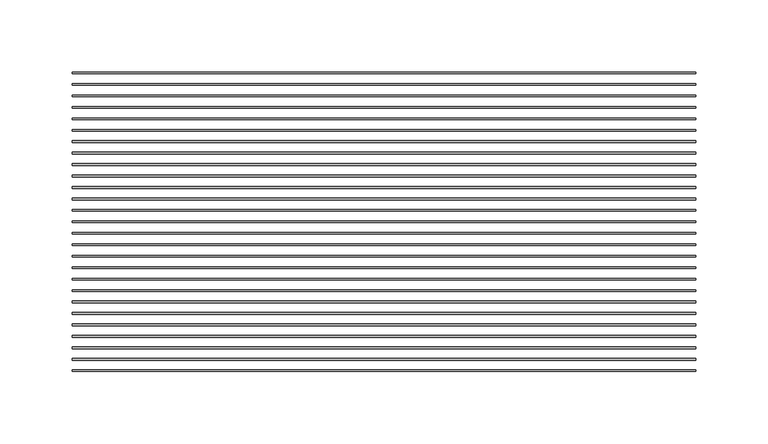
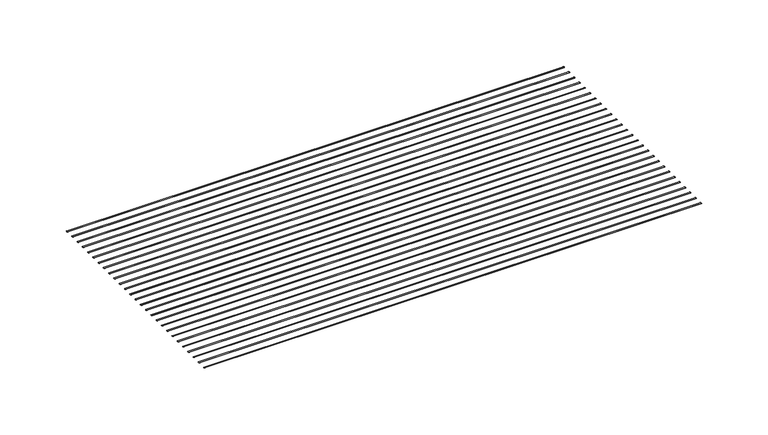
"""IFC4 building model written with IfcOpenShell, lengths in millimetres: proxy geometry, CRAi Generic Model Mesh Piece Face Based : Wider Mesh."""

from ifc_helpers import new_model, si_unit, point, frame, origin, place, context, project, spatial, ellipse_curve, trimmed, source, transform, mapped, element, save
from ifc_brep_helpers import plane_surface, extruded_surface, advanced_brep


def generic_models_a84ea892(model_context):
    return source(origin(), model_context, "Body", "AdvancedBrep", [
        advanced_brep(
        [(-215.9, 168.0765625, -2.9765625), (-215.9, 166.8859375, -2.9765625), (215.9, 168.0765625, -2.9765625), (215.9, 166.8859375, -2.9765625)],
        [
            (0, 1, ellipse_curve(frame((-215.9, 167.48125, -2.9765625), z_axis=(-1.0, 0.0, 0.0), x_axis=(0.0, -1.0, 0.0)), 0.5953125, 0.1984375)),
            (1, 0, ellipse_curve(frame((-215.9, 167.48125, -2.9765625), z_axis=(-1.0, 0.0, 0.0), x_axis=(0.0, -1.0, 0.0)), 0.5953125, 0.1984375)),
            (2, 3, ellipse_curve(frame((215.9, 167.48125, -2.9765625), z_axis=(1.0, 0.0, 0.0), x_axis=(0.0, -1.0, 0.0)), 0.5953125, 0.1984375)),
            (3, 2, ellipse_curve(frame((215.9, 167.48125, -2.9765625), z_axis=(1.0, 0.0, 0.0), x_axis=(0.0, -1.0, 0.0)), 0.5953125, 0.1984375)),
            (0, 2),
            (3, 1),
        ],
        [
            plane_surface(frame((-215.9, 167.48125, -2.9765625), z_axis=(-1.0, 0.0, 0.0), x_axis=(0.0, 0.0, 1.0))),
            plane_surface(frame((215.9, 167.48125, -2.9765625), z_axis=(1.0, 0.0, 0.0), x_axis=(0.0, 0.0, 1.0))),
            extruded_surface(trimmed(ellipse_curve(frame((215.9, 167.48125, -2.9765625), z_axis=(-1.0, 0.0, 0.0), x_axis=(0.0, -1.0, 0.0)), 0.5953125, 0.1984375), [point((215.9, 168.0765625, -2.9765625))], [point((215.9, 166.8859375, -2.9765625))], True, "CARTESIAN"), (-431.8, 0.0, 0.0), 431.8),
            extruded_surface(trimmed(ellipse_curve(frame((215.9, 167.48125, -2.9765625), z_axis=(-1.0, 0.0, 0.0), x_axis=(0.0, -1.0, 0.0)), 0.5953125, 0.1984375), [point((215.9, 166.8859375, -2.9765625))], [point((215.9, 168.0765625, -2.9765625))], True, "CARTESIAN"), (-431.8, 0.0, 0.0), 431.8),
        ],
        [
            (0, [[1, 2]]),
            (1, [[3, 4]]),
            (2, [[-1, 5, -4, 6]]),
            (3, [[-2, -6, -3, -5]]),
        ],
    ),
        advanced_brep(
        [(-215.9, 160.1390625, -2.9765625), (-215.9, 158.9484375, -2.9765625), (215.9, 160.1390625, -2.9765625), (215.9, 158.9484375, -2.9765625)],
        [
            (0, 1, ellipse_curve(frame((-215.9, 159.54375, -2.9765625), z_axis=(-1.0, 0.0, 0.0), x_axis=(0.0, -1.0, 0.0)), 0.5953125, 0.1984375)),
            (1, 0, ellipse_curve(frame((-215.9, 159.54375, -2.9765625), z_axis=(-1.0, 0.0, 0.0), x_axis=(0.0, -1.0, 0.0)), 0.5953125, 0.1984375)),
            (2, 3, ellipse_curve(frame((215.9, 159.54375, -2.9765625), z_axis=(1.0, 0.0, 0.0), x_axis=(0.0, -1.0, 0.0)), 0.5953125, 0.1984375)),
            (3, 2, ellipse_curve(frame((215.9, 159.54375, -2.9765625), z_axis=(1.0, 0.0, 0.0), x_axis=(0.0, -1.0, 0.0)), 0.5953125, 0.1984375)),
            (0, 2),
            (3, 1),
        ],
        [
            plane_surface(frame((-215.9, 159.54375, -2.9765625), z_axis=(-1.0, 0.0, 0.0), x_axis=(0.0, 0.0, 1.0))),
            plane_surface(frame((215.9, 159.54375, -2.9765625), z_axis=(1.0, 0.0, 0.0), x_axis=(0.0, 0.0, 1.0))),
            extruded_surface(trimmed(ellipse_curve(frame((215.9, 159.54375, -2.9765625), z_axis=(-1.0, 0.0, 0.0), x_axis=(0.0, -1.0, 0.0)), 0.5953125, 0.1984375), [point((215.9, 160.1390625, -2.9765625))], [point((215.9, 158.9484375, -2.9765625))], True, "CARTESIAN"), (-431.8, 0.0, 0.0), 431.8),
            extruded_surface(trimmed(ellipse_curve(frame((215.9, 159.54375, -2.9765625), z_axis=(-1.0, 0.0, 0.0), x_axis=(0.0, -1.0, 0.0)), 0.5953125, 0.1984375), [point((215.9, 158.9484375, -2.9765625))], [point((215.9, 160.1390625, -2.9765625))], True, "CARTESIAN"), (-431.8, 0.0, 0.0), 431.8),
        ],
        [
            (0, [[1, 2]]),
            (1, [[3, 4]]),
            (2, [[-1, 5, -4, 6]]),
            (3, [[-2, -6, -3, -5]]),
        ],
    ),
        advanced_brep(
        [(-215.9, 152.2015625, -2.9765625), (-215.9, 151.0109375, -2.9765625), (215.9, 152.2015625, -2.9765625), (215.9, 151.0109375, -2.9765625)],
        [
            (0, 1, ellipse_curve(frame((-215.9, 151.60625, -2.9765625), z_axis=(-1.0, 0.0, 0.0), x_axis=(0.0, -1.0, 0.0)), 0.5953125, 0.1984375)),
            (1, 0, ellipse_curve(frame((-215.9, 151.60625, -2.9765625), z_axis=(-1.0, 0.0, 0.0), x_axis=(0.0, -1.0, 0.0)), 0.5953125, 0.1984375)),
            (2, 3, ellipse_curve(frame((215.9, 151.60625, -2.9765625), z_axis=(1.0, 0.0, 0.0), x_axis=(0.0, -1.0, 0.0)), 0.5953125, 0.1984375)),
            (3, 2, ellipse_curve(frame((215.9, 151.60625, -2.9765625), z_axis=(1.0, 0.0, 0.0), x_axis=(0.0, -1.0, 0.0)), 0.5953125, 0.1984375)),
            (0, 2),
            (3, 1),
        ],
        [
            plane_surface(frame((-215.9, 151.60625, -2.9765625), z_axis=(-1.0, 0.0, 0.0), x_axis=(0.0, 0.0, 1.0))),
            plane_surface(frame((215.9, 151.60625, -2.9765625), z_axis=(1.0, 0.0, 0.0), x_axis=(0.0, 0.0, 1.0))),
            extruded_surface(trimmed(ellipse_curve(frame((215.9, 151.60625, -2.9765625), z_axis=(-1.0, 0.0, 0.0), x_axis=(0.0, -1.0, 0.0)), 0.5953125, 0.1984375), [point((215.9, 152.2015625, -2.9765625))], [point((215.9, 151.0109375, -2.9765625))], True, "CARTESIAN"), (-431.8, 0.0, 0.0), 431.8),
            extruded_surface(trimmed(ellipse_curve(frame((215.9, 151.60625, -2.9765625), z_axis=(-1.0, 0.0, 0.0), x_axis=(0.0, -1.0, 0.0)), 0.5953125, 0.1984375), [point((215.9, 151.0109375, -2.9765625))], [point((215.9, 152.2015625, -2.9765625))], True, "CARTESIAN"), (-431.8, 0.0, 0.0), 431.8),
        ],
        [
            (0, [[1, 2]]),
            (1, [[3, 4]]),
            (2, [[-1, 5, -4, 6]]),
            (3, [[-2, -6, -3, -5]]),
        ],
    ),
        advanced_brep(
        [(-215.9, 144.2640625, -2.9765625), (-215.9, 143.0734375, -2.9765625), (215.9, 144.2640625, -2.9765625), (215.9, 143.0734375, -2.9765625)],
        [
            (0, 1, ellipse_curve(frame((-215.9, 143.66875, -2.9765625), z_axis=(-1.0, 0.0, 0.0), x_axis=(0.0, -1.0, 0.0)), 0.5953125, 0.1984375)),
            (1, 0, ellipse_curve(frame((-215.9, 143.66875, -2.9765625), z_axis=(-1.0, 0.0, 0.0), x_axis=(0.0, -1.0, 0.0)), 0.5953125, 0.1984375)),
            (2, 3, ellipse_curve(frame((215.9, 143.66875, -2.9765625), z_axis=(1.0, 0.0, 0.0), x_axis=(0.0, -1.0, 0.0)), 0.5953125, 0.1984375)),
            (3, 2, ellipse_curve(frame((215.9, 143.66875, -2.9765625), z_axis=(1.0, 0.0, 0.0), x_axis=(0.0, -1.0, 0.0)), 0.5953125, 0.1984375)),
            (0, 2),
            (3, 1),
        ],
        [
            plane_surface(frame((-215.9, 143.66875, -2.9765625), z_axis=(-1.0, 0.0, 0.0), x_axis=(0.0, 0.0, 1.0))),
            plane_surface(frame((215.9, 143.66875, -2.9765625), z_axis=(1.0, 0.0, 0.0), x_axis=(0.0, 0.0, 1.0))),
            extruded_surface(trimmed(ellipse_curve(frame((215.9, 143.66875, -2.9765625), z_axis=(-1.0, 0.0, 0.0), x_axis=(0.0, -1.0, 0.0)), 0.5953125, 0.1984375), [point((215.9, 144.2640625, -2.9765625))], [point((215.9, 143.0734375, -2.9765625))], True, "CARTESIAN"), (-431.8, 0.0, 0.0), 431.8),
            extruded_surface(trimmed(ellipse_curve(frame((215.9, 143.66875, -2.9765625), z_axis=(-1.0, 0.0, 0.0), x_axis=(0.0, -1.0, 0.0)), 0.5953125, 0.1984375), [point((215.9, 143.0734375, -2.9765625))], [point((215.9, 144.2640625, -2.9765625))], True, "CARTESIAN"), (-431.8, 0.0, 0.0), 431.8),
        ],
        [
            (0, [[1, 2]]),
            (1, [[3, 4]]),
            (2, [[-1, 5, -4, 6]]),
            (3, [[-2, -6, -3, -5]]),
        ],
    ),
        advanced_brep(
        [(-215.9, 136.3265625, -2.9765625), (-215.9, 135.1359375, -2.9765625), (215.9, 136.3265625, -2.9765625), (215.9, 135.1359375, -2.9765625)],
        [
            (0, 1, ellipse_curve(frame((-215.9, 135.73125, -2.9765625), z_axis=(-1.0, 0.0, 0.0), x_axis=(0.0, -1.0, 0.0)), 0.5953125, 0.1984375)),
            (1, 0, ellipse_curve(frame((-215.9, 135.73125, -2.9765625), z_axis=(-1.0, 0.0, 0.0), x_axis=(0.0, -1.0, 0.0)), 0.5953125, 0.1984375)),
            (2, 3, ellipse_curve(frame((215.9, 135.73125, -2.9765625), z_axis=(1.0, 0.0, 0.0), x_axis=(0.0, -1.0, 0.0)), 0.5953125, 0.1984375)),
            (3, 2, ellipse_curve(frame((215.9, 135.73125, -2.9765625), z_axis=(1.0, 0.0, 0.0), x_axis=(0.0, -1.0, 0.0)), 0.5953125, 0.1984375)),
            (0, 2),
            (3, 1),
        ],
        [
            plane_surface(frame((-215.9, 135.73125, -2.9765625), z_axis=(-1.0, 0.0, 0.0), x_axis=(0.0, 0.0, 1.0))),
            plane_surface(frame((215.9, 135.73125, -2.9765625), z_axis=(1.0, 0.0, 0.0), x_axis=(0.0, 0.0, 1.0))),
            extruded_surface(trimmed(ellipse_curve(frame((215.9, 135.73125, -2.9765625), z_axis=(-1.0, 0.0, 0.0), x_axis=(0.0, -1.0, 0.0)), 0.5953125, 0.1984375), [point((215.9, 136.3265625, -2.9765625))], [point((215.9, 135.1359375, -2.9765625))], True, "CARTESIAN"), (-431.8, 0.0, 0.0), 431.8),
            extruded_surface(trimmed(ellipse_curve(frame((215.9, 135.73125, -2.9765625), z_axis=(-1.0, 0.0, 0.0), x_axis=(0.0, -1.0, 0.0)), 0.5953125, 0.1984375), [point((215.9, 135.1359375, -2.9765625))], [point((215.9, 136.3265625, -2.9765625))], True, "CARTESIAN"), (-431.8, 0.0, 0.0), 431.8),
        ],
        [
            (0, [[1, 2]]),
            (1, [[3, 4]]),
            (2, [[-1, 5, -4, 6]]),
            (3, [[-2, -6, -3, -5]]),
        ],
    ),
        advanced_brep(
        [(-215.9, 128.3890625, -2.9765625), (-215.9, 127.1984375, -2.9765625), (215.9, 128.3890625, -2.9765625), (215.9, 127.1984375, -2.9765625)],
        [
            (0, 1, ellipse_curve(frame((-215.9, 127.79375, -2.9765625), z_axis=(-1.0, 0.0, 0.0), x_axis=(0.0, -1.0, 0.0)), 0.5953125, 0.1984375)),
            (1, 0, ellipse_curve(frame((-215.9, 127.79375, -2.9765625), z_axis=(-1.0, 0.0, 0.0), x_axis=(0.0, -1.0, 0.0)), 0.5953125, 0.1984375)),
            (2, 3, ellipse_curve(frame((215.9, 127.79375, -2.9765625), z_axis=(1.0, 0.0, 0.0), x_axis=(0.0, -1.0, 0.0)), 0.5953125, 0.1984375)),
            (3, 2, ellipse_curve(frame((215.9, 127.79375, -2.9765625), z_axis=(1.0, 0.0, 0.0), x_axis=(0.0, -1.0, 0.0)), 0.5953125, 0.1984375)),
            (0, 2),
            (3, 1),
        ],
        [
            plane_surface(frame((-215.9, 127.79375, -2.9765625), z_axis=(-1.0, 0.0, 0.0), x_axis=(0.0, 0.0, 1.0))),
            plane_surface(frame((215.9, 127.79375, -2.9765625), z_axis=(1.0, 0.0, 0.0), x_axis=(0.0, 0.0, 1.0))),
            extruded_surface(trimmed(ellipse_curve(frame((215.9, 127.79375, -2.9765625), z_axis=(-1.0, 0.0, 0.0), x_axis=(0.0, -1.0, 0.0)), 0.5953125, 0.1984375), [point((215.9, 128.3890625, -2.9765625))], [point((215.9, 127.1984375, -2.9765625))], True, "CARTESIAN"), (-431.8, 0.0, 0.0), 431.8),
            extruded_surface(trimmed(ellipse_curve(frame((215.9, 127.79375, -2.9765625), z_axis=(-1.0, 0.0, 0.0), x_axis=(0.0, -1.0, 0.0)), 0.5953125, 0.1984375), [point((215.9, 127.1984375, -2.9765625))], [point((215.9, 128.3890625, -2.9765625))], True, "CARTESIAN"), (-431.8, 0.0, 0.0), 431.8),
        ],
        [
            (0, [[1, 2]]),
            (1, [[3, 4]]),
            (2, [[-1, 5, -4, 6]]),
            (3, [[-2, -6, -3, -5]]),
        ],
    ),
        advanced_brep(
        [(-215.9, 120.4515625, -2.9765625), (-215.9, 119.2609375, -2.9765625), (215.9, 120.4515625, -2.9765625), (215.9, 119.2609375, -2.9765625)],
        [
            (0, 1, ellipse_curve(frame((-215.9, 119.85625, -2.9765625), z_axis=(-1.0, 0.0, 0.0), x_axis=(0.0, -1.0, 0.0)), 0.5953125, 0.1984375)),
            (1, 0, ellipse_curve(frame((-215.9, 119.85625, -2.9765625), z_axis=(-1.0, 0.0, 0.0), x_axis=(0.0, -1.0, 0.0)), 0.5953125, 0.1984375)),
            (2, 3, ellipse_curve(frame((215.9, 119.85625, -2.9765625), z_axis=(1.0, 0.0, 0.0), x_axis=(0.0, -1.0, 0.0)), 0.5953125, 0.1984375)),
            (3, 2, ellipse_curve(frame((215.9, 119.85625, -2.9765625), z_axis=(1.0, 0.0, 0.0), x_axis=(0.0, -1.0, 0.0)), 0.5953125, 0.1984375)),
            (0, 2),
            (3, 1),
        ],
        [
            plane_surface(frame((-215.9, 119.85625, -2.9765625), z_axis=(-1.0, 0.0, 0.0), x_axis=(0.0, 0.0, 1.0))),
            plane_surface(frame((215.9, 119.85625, -2.9765625), z_axis=(1.0, 0.0, 0.0), x_axis=(0.0, 0.0, 1.0))),
            extruded_surface(trimmed(ellipse_curve(frame((215.9, 119.85625, -2.9765625), z_axis=(-1.0, 0.0, 0.0), x_axis=(0.0, -1.0, 0.0)), 0.5953125, 0.1984375), [point((215.9, 120.4515625, -2.9765625))], [point((215.9, 119.2609375, -2.9765625))], True, "CARTESIAN"), (-431.8, 0.0, 0.0), 431.8),
            extruded_surface(trimmed(ellipse_curve(frame((215.9, 119.85625, -2.9765625), z_axis=(-1.0, 0.0, 0.0), x_axis=(0.0, -1.0, 0.0)), 0.5953125, 0.1984375), [point((215.9, 119.2609375, -2.9765625))], [point((215.9, 120.4515625, -2.9765625))], True, "CARTESIAN"), (-431.8, 0.0, 0.0), 431.8),
        ],
        [
            (0, [[1, 2]]),
            (1, [[3, 4]]),
            (2, [[-1, 5, -4, 6]]),
            (3, [[-2, -6, -3, -5]]),
        ],
    ),
        advanced_brep(
        [(-215.9, 112.5140625, -2.9765625), (-215.9, 111.3234375, -2.9765625), (215.9, 112.5140625, -2.9765625), (215.9, 111.3234375, -2.9765625)],
        [
            (0, 1, ellipse_curve(frame((-215.9, 111.91875, -2.9765625), z_axis=(-1.0, 0.0, 0.0), x_axis=(0.0, -1.0, 0.0)), 0.5953125, 0.1984375)),
            (1, 0, ellipse_curve(frame((-215.9, 111.91875, -2.9765625), z_axis=(-1.0, 0.0, 0.0), x_axis=(0.0, -1.0, 0.0)), 0.5953125, 0.1984375)),
            (2, 3, ellipse_curve(frame((215.9, 111.91875, -2.9765625), z_axis=(1.0, 0.0, 0.0), x_axis=(0.0, -1.0, 0.0)), 0.5953125, 0.1984375)),
            (3, 2, ellipse_curve(frame((215.9, 111.91875, -2.9765625), z_axis=(1.0, 0.0, 0.0), x_axis=(0.0, -1.0, 0.0)), 0.5953125, 0.1984375)),
            (0, 2),
            (3, 1),
        ],
        [
            plane_surface(frame((-215.9, 111.91875, -2.9765625), z_axis=(-1.0, 0.0, 0.0), x_axis=(0.0, 0.0, 1.0))),
            plane_surface(frame((215.9, 111.91875, -2.9765625), z_axis=(1.0, 0.0, 0.0), x_axis=(0.0, 0.0, 1.0))),
            extruded_surface(trimmed(ellipse_curve(frame((215.9, 111.91875, -2.9765625), z_axis=(-1.0, 0.0, 0.0), x_axis=(0.0, -1.0, 0.0)), 0.5953125, 0.1984375), [point((215.9, 112.5140625, -2.9765625))], [point((215.9, 111.3234375, -2.9765625))], True, "CARTESIAN"), (-431.8, 0.0, 0.0), 431.8),
            extruded_surface(trimmed(ellipse_curve(frame((215.9, 111.91875, -2.9765625), z_axis=(-1.0, 0.0, 0.0), x_axis=(0.0, -1.0, 0.0)), 0.5953125, 0.1984375), [point((215.9, 111.3234375, -2.9765625))], [point((215.9, 112.5140625, -2.9765625))], True, "CARTESIAN"), (-431.8, 0.0, 0.0), 431.8),
        ],
        [
            (0, [[1, 2]]),
            (1, [[3, 4]]),
            (2, [[-1, 5, -4, 6]]),
            (3, [[-2, -6, -3, -5]]),
        ],
    ),
        advanced_brep(
        [(-215.9, 104.5765625, -2.9765625), (-215.9, 103.3859375, -2.9765625), (215.9, 104.5765625, -2.9765625), (215.9, 103.3859375, -2.9765625)],
        [
            (0, 1, ellipse_curve(frame((-215.9, 103.98125, -2.9765625), z_axis=(-1.0, 0.0, 0.0), x_axis=(0.0, -1.0, 0.0)), 0.5953125, 0.1984375)),
            (1, 0, ellipse_curve(frame((-215.9, 103.98125, -2.9765625), z_axis=(-1.0, 0.0, 0.0), x_axis=(0.0, -1.0, 0.0)), 0.5953125, 0.1984375)),
            (2, 3, ellipse_curve(frame((215.9, 103.98125, -2.9765625), z_axis=(1.0, 0.0, 0.0), x_axis=(0.0, -1.0, 0.0)), 0.5953125, 0.1984375)),
            (3, 2, ellipse_curve(frame((215.9, 103.98125, -2.9765625), z_axis=(1.0, 0.0, 0.0), x_axis=(0.0, -1.0, 0.0)), 0.5953125, 0.1984375)),
            (0, 2),
            (3, 1),
        ],
        [
            plane_surface(frame((-215.9, 103.98125, -2.9765625), z_axis=(-1.0, 0.0, 0.0), x_axis=(0.0, 0.0, 1.0))),
            plane_surface(frame((215.9, 103.98125, -2.9765625), z_axis=(1.0, 0.0, 0.0), x_axis=(0.0, 0.0, 1.0))),
            extruded_surface(trimmed(ellipse_curve(frame((215.9, 103.98125, -2.9765625), z_axis=(-1.0, 0.0, 0.0), x_axis=(0.0, -1.0, 0.0)), 0.5953125, 0.1984375), [point((215.9, 104.5765625, -2.9765625))], [point((215.9, 103.3859375, -2.9765625))], True, "CARTESIAN"), (-431.8, 0.0, 0.0), 431.8),
            extruded_surface(trimmed(ellipse_curve(frame((215.9, 103.98125, -2.9765625), z_axis=(-1.0, 0.0, 0.0), x_axis=(0.0, -1.0, 0.0)), 0.5953125, 0.1984375), [point((215.9, 103.3859375, -2.9765625))], [point((215.9, 104.5765625, -2.9765625))], True, "CARTESIAN"), (-431.8, 0.0, 0.0), 431.8),
        ],
        [
            (0, [[1, 2]]),
            (1, [[3, 4]]),
            (2, [[-1, 5, -4, 6]]),
            (3, [[-2, -6, -3, -5]]),
        ],
    ),
        advanced_brep(
        [(-215.9, 96.6390625, -2.9765625), (-215.9, 95.4484375, -2.9765625), (215.9, 96.6390625, -2.9765625), (215.9, 95.4484375, -2.9765625)],
        [
            (0, 1, ellipse_curve(frame((-215.9, 96.04375, -2.9765625), z_axis=(-1.0, 0.0, 0.0), x_axis=(0.0, -1.0, 0.0)), 0.5953125, 0.1984375)),
            (1, 0, ellipse_curve(frame((-215.9, 96.04375, -2.9765625), z_axis=(-1.0, 0.0, 0.0), x_axis=(0.0, -1.0, 0.0)), 0.5953125, 0.1984375)),
            (2, 3, ellipse_curve(frame((215.9, 96.04375, -2.9765625), z_axis=(1.0, 0.0, 0.0), x_axis=(0.0, -1.0, 0.0)), 0.5953125, 0.1984375)),
            (3, 2, ellipse_curve(frame((215.9, 96.04375, -2.9765625), z_axis=(1.0, 0.0, 0.0), x_axis=(0.0, -1.0, 0.0)), 0.5953125, 0.1984375)),
            (0, 2),
            (3, 1),
        ],
        [
            plane_surface(frame((-215.9, 96.04375, -2.9765625), z_axis=(-1.0, 0.0, 0.0), x_axis=(0.0, 0.0, 1.0))),
            plane_surface(frame((215.9, 96.04375, -2.9765625), z_axis=(1.0, 0.0, 0.0), x_axis=(0.0, 0.0, 1.0))),
            extruded_surface(trimmed(ellipse_curve(frame((215.9, 96.04375, -2.9765625), z_axis=(-1.0, 0.0, 0.0), x_axis=(0.0, -1.0, 0.0)), 0.5953125, 0.1984375), [point((215.9, 96.6390625, -2.9765625))], [point((215.9, 95.4484375, -2.9765625))], True, "CARTESIAN"), (-431.8, 0.0, 0.0), 431.8),
            extruded_surface(trimmed(ellipse_curve(frame((215.9, 96.04375, -2.9765625), z_axis=(-1.0, 0.0, 0.0), x_axis=(0.0, -1.0, 0.0)), 0.5953125, 0.1984375), [point((215.9, 95.4484375, -2.9765625))], [point((215.9, 96.6390625, -2.9765625))], True, "CARTESIAN"), (-431.8, 0.0, 0.0), 431.8),
        ],
        [
            (0, [[1, 2]]),
            (1, [[3, 4]]),
            (2, [[-1, 5, -4, 6]]),
            (3, [[-2, -6, -3, -5]]),
        ],
    ),
        advanced_brep(
        [(-215.9, 88.7015625, -2.9765625), (-215.9, 87.5109375, -2.9765625), (215.9, 88.7015625, -2.9765625), (215.9, 87.5109375, -2.9765625)],
        [
            (0, 1, ellipse_curve(frame((-215.9, 88.10625, -2.9765625), z_axis=(-1.0, 0.0, 0.0), x_axis=(0.0, -1.0, 0.0)), 0.5953125, 0.1984375)),
            (1, 0, ellipse_curve(frame((-215.9, 88.10625, -2.9765625), z_axis=(-1.0, 0.0, 0.0), x_axis=(0.0, -1.0, 0.0)), 0.5953125, 0.1984375)),
            (2, 3, ellipse_curve(frame((215.9, 88.10625, -2.9765625), z_axis=(1.0, 0.0, 0.0), x_axis=(0.0, -1.0, 0.0)), 0.5953125, 0.1984375)),
            (3, 2, ellipse_curve(frame((215.9, 88.10625, -2.9765625), z_axis=(1.0, 0.0, 0.0), x_axis=(0.0, -1.0, 0.0)), 0.5953125, 0.1984375)),
            (0, 2),
            (3, 1),
        ],
        [
            plane_surface(frame((-215.9, 88.10625, -2.9765625), z_axis=(-1.0, 0.0, 0.0), x_axis=(0.0, 0.0, 1.0))),
            plane_surface(frame((215.9, 88.10625, -2.9765625), z_axis=(1.0, 0.0, 0.0), x_axis=(0.0, 0.0, 1.0))),
            extruded_surface(trimmed(ellipse_curve(frame((215.9, 88.10625, -2.9765625), z_axis=(-1.0, 0.0, 0.0), x_axis=(0.0, -1.0, 0.0)), 0.5953125, 0.1984375), [point((215.9, 88.7015625, -2.9765625))], [point((215.9, 87.5109375, -2.9765625))], True, "CARTESIAN"), (-431.8, 0.0, 0.0), 431.8),
            extruded_surface(trimmed(ellipse_curve(frame((215.9, 88.10625, -2.9765625), z_axis=(-1.0, 0.0, 0.0), x_axis=(0.0, -1.0, 0.0)), 0.5953125, 0.1984375), [point((215.9, 87.5109375, -2.9765625))], [point((215.9, 88.7015625, -2.9765625))], True, "CARTESIAN"), (-431.8, 0.0, 0.0), 431.8),
        ],
        [
            (0, [[1, 2]]),
            (1, [[3, 4]]),
            (2, [[-1, 5, -4, 6]]),
            (3, [[-2, -6, -3, -5]]),
        ],
    ),
        advanced_brep(
        [(-215.9, 80.7640625, -2.9765625), (-215.9, 79.5734375, -2.9765625), (215.9, 80.7640625, -2.9765625), (215.9, 79.5734375, -2.9765625)],
        [
            (0, 1, ellipse_curve(frame((-215.9, 80.16875, -2.9765625), z_axis=(-1.0, 0.0, 0.0), x_axis=(0.0, -1.0, 0.0)), 0.5953125, 0.1984375)),
            (1, 0, ellipse_curve(frame((-215.9, 80.16875, -2.9765625), z_axis=(-1.0, 0.0, 0.0), x_axis=(0.0, -1.0, 0.0)), 0.5953125, 0.1984375)),
            (2, 3, ellipse_curve(frame((215.9, 80.16875, -2.9765625), z_axis=(1.0, 0.0, 0.0), x_axis=(0.0, -1.0, 0.0)), 0.5953125, 0.1984375)),
            (3, 2, ellipse_curve(frame((215.9, 80.16875, -2.9765625), z_axis=(1.0, 0.0, 0.0), x_axis=(0.0, -1.0, 0.0)), 0.5953125, 0.1984375)),
            (0, 2),
            (3, 1),
        ],
        [
            plane_surface(frame((-215.9, 80.16875, -2.9765625), z_axis=(-1.0, 0.0, 0.0), x_axis=(0.0, 0.0, 1.0))),
            plane_surface(frame((215.9, 80.16875, -2.9765625), z_axis=(1.0, 0.0, 0.0), x_axis=(0.0, 0.0, 1.0))),
            extruded_surface(trimmed(ellipse_curve(frame((215.9, 80.16875, -2.9765625), z_axis=(-1.0, 0.0, 0.0), x_axis=(0.0, -1.0, 0.0)), 0.5953125, 0.1984375), [point((215.9, 80.7640625, -2.9765625))], [point((215.9, 79.5734375, -2.9765625))], True, "CARTESIAN"), (-431.8, 0.0, 0.0), 431.8),
            extruded_surface(trimmed(ellipse_curve(frame((215.9, 80.16875, -2.9765625), z_axis=(-1.0, 0.0, 0.0), x_axis=(0.0, -1.0, 0.0)), 0.5953125, 0.1984375), [point((215.9, 79.5734375, -2.9765625))], [point((215.9, 80.7640625, -2.9765625))], True, "CARTESIAN"), (-431.8, 0.0, 0.0), 431.8),
        ],
        [
            (0, [[1, 2]]),
            (1, [[3, 4]]),
            (2, [[-1, 5, -4, 6]]),
            (3, [[-2, -6, -3, -5]]),
        ],
    ),
        advanced_brep(
        [(-215.9, 72.8265625, -2.9765625), (-215.9, 71.6359375, -2.9765625), (215.9, 72.8265625, -2.9765625), (215.9, 71.6359375, -2.9765625)],
        [
            (0, 1, ellipse_curve(frame((-215.9, 72.23125, -2.9765625), z_axis=(-1.0, 0.0, 0.0), x_axis=(0.0, -1.0, 0.0)), 0.5953125, 0.1984375)),
            (1, 0, ellipse_curve(frame((-215.9, 72.23125, -2.9765625), z_axis=(-1.0, 0.0, 0.0), x_axis=(0.0, -1.0, 0.0)), 0.5953125, 0.1984375)),
            (2, 3, ellipse_curve(frame((215.9, 72.23125, -2.9765625), z_axis=(1.0, 0.0, 0.0), x_axis=(0.0, -1.0, 0.0)), 0.5953125, 0.1984375)),
            (3, 2, ellipse_curve(frame((215.9, 72.23125, -2.9765625), z_axis=(1.0, 0.0, 0.0), x_axis=(0.0, -1.0, 0.0)), 0.5953125, 0.1984375)),
            (0, 2),
            (3, 1),
        ],
        [
            plane_surface(frame((-215.9, 72.23125, -2.9765625), z_axis=(-1.0, 0.0, 0.0), x_axis=(0.0, 0.0, 1.0))),
            plane_surface(frame((215.9, 72.23125, -2.9765625), z_axis=(1.0, 0.0, 0.0), x_axis=(0.0, 0.0, 1.0))),
            extruded_surface(trimmed(ellipse_curve(frame((215.9, 72.23125, -2.9765625), z_axis=(-1.0, 0.0, 0.0), x_axis=(0.0, -1.0, 0.0)), 0.5953125, 0.1984375), [point((215.9, 72.8265625, -2.9765625))], [point((215.9, 71.6359375, -2.9765625))], True, "CARTESIAN"), (-431.8, 0.0, 0.0), 431.8),
            extruded_surface(trimmed(ellipse_curve(frame((215.9, 72.23125, -2.9765625), z_axis=(-1.0, 0.0, 0.0), x_axis=(0.0, -1.0, 0.0)), 0.5953125, 0.1984375), [point((215.9, 71.6359375, -2.9765625))], [point((215.9, 72.8265625, -2.9765625))], True, "CARTESIAN"), (-431.8, 0.0, 0.0), 431.8),
        ],
        [
            (0, [[1, 2]]),
            (1, [[3, 4]]),
            (2, [[-1, 5, -4, 6]]),
            (3, [[-2, -6, -3, -5]]),
        ],
    ),
        advanced_brep(
        [(-215.9, 64.8890625, -2.9765625), (-215.9, 63.6984375, -2.9765625), (215.9, 64.8890625, -2.9765625), (215.9, 63.6984375, -2.9765625)],
        [
            (0, 1, ellipse_curve(frame((-215.9, 64.29375, -2.9765625), z_axis=(-1.0, 0.0, 0.0), x_axis=(0.0, -1.0, 0.0)), 0.5953125, 0.1984375)),
            (1, 0, ellipse_curve(frame((-215.9, 64.29375, -2.9765625), z_axis=(-1.0, 0.0, 0.0), x_axis=(0.0, -1.0, 0.0)), 0.5953125, 0.1984375)),
            (2, 3, ellipse_curve(frame((215.9, 64.29375, -2.9765625), z_axis=(1.0, 0.0, 0.0), x_axis=(0.0, -1.0, 0.0)), 0.5953125, 0.1984375)),
            (3, 2, ellipse_curve(frame((215.9, 64.29375, -2.9765625), z_axis=(1.0, 0.0, 0.0), x_axis=(0.0, -1.0, 0.0)), 0.5953125, 0.1984375)),
            (0, 2),
            (3, 1),
        ],
        [
            plane_surface(frame((-215.9, 64.29375, -2.9765625), z_axis=(-1.0, 0.0, 0.0), x_axis=(0.0, 0.0, 1.0))),
            plane_surface(frame((215.9, 64.29375, -2.9765625), z_axis=(1.0, 0.0, 0.0), x_axis=(0.0, 0.0, 1.0))),
            extruded_surface(trimmed(ellipse_curve(frame((215.9, 64.29375, -2.9765625), z_axis=(-1.0, 0.0, 0.0), x_axis=(0.0, -1.0, 0.0)), 0.5953125, 0.1984375), [point((215.9, 64.8890625, -2.9765625))], [point((215.9, 63.6984375, -2.9765625))], True, "CARTESIAN"), (-431.8, 0.0, 0.0), 431.8),
            extruded_surface(trimmed(ellipse_curve(frame((215.9, 64.29375, -2.9765625), z_axis=(-1.0, 0.0, 0.0), x_axis=(0.0, -1.0, 0.0)), 0.5953125, 0.1984375), [point((215.9, 63.6984375, -2.9765625))], [point((215.9, 64.8890625, -2.9765625))], True, "CARTESIAN"), (-431.8, 0.0, 0.0), 431.8),
        ],
        [
            (0, [[1, 2]]),
            (1, [[3, 4]]),
            (2, [[-1, 5, -4, 6]]),
            (3, [[-2, -6, -3, -5]]),
        ],
    ),
        advanced_brep(
        [(-215.9, 56.9515625, -2.9765625), (-215.9, 55.7609375, -2.9765625), (215.9, 56.9515625, -2.9765625), (215.9, 55.7609375, -2.9765625)],
        [
            (0, 1, ellipse_curve(frame((-215.9, 56.35625, -2.9765625), z_axis=(-1.0, 0.0, 0.0), x_axis=(0.0, -1.0, 0.0)), 0.5953125, 0.1984375)),
            (1, 0, ellipse_curve(frame((-215.9, 56.35625, -2.9765625), z_axis=(-1.0, 0.0, 0.0), x_axis=(0.0, -1.0, 0.0)), 0.5953125, 0.1984375)),
            (2, 3, ellipse_curve(frame((215.9, 56.35625, -2.9765625), z_axis=(1.0, 0.0, 0.0), x_axis=(0.0, -1.0, 0.0)), 0.5953125, 0.1984375)),
            (3, 2, ellipse_curve(frame((215.9, 56.35625, -2.9765625), z_axis=(1.0, 0.0, 0.0), x_axis=(0.0, -1.0, 0.0)), 0.5953125, 0.1984375)),
            (0, 2),
            (3, 1),
        ],
        [
            plane_surface(frame((-215.9, 56.35625, -2.9765625), z_axis=(-1.0, 0.0, 0.0), x_axis=(0.0, 0.0, 1.0))),
            plane_surface(frame((215.9, 56.35625, -2.9765625), z_axis=(1.0, 0.0, 0.0), x_axis=(0.0, 0.0, 1.0))),
            extruded_surface(trimmed(ellipse_curve(frame((215.9, 56.35625, -2.9765625), z_axis=(-1.0, 0.0, 0.0), x_axis=(0.0, -1.0, 0.0)), 0.5953125, 0.1984375), [point((215.9, 56.9515625, -2.9765625))], [point((215.9, 55.7609375, -2.9765625))], True, "CARTESIAN"), (-431.8, 0.0, 0.0), 431.8),
            extruded_surface(trimmed(ellipse_curve(frame((215.9, 56.35625, -2.9765625), z_axis=(-1.0, 0.0, 0.0), x_axis=(0.0, -1.0, 0.0)), 0.5953125, 0.1984375), [point((215.9, 55.7609375, -2.9765625))], [point((215.9, 56.9515625, -2.9765625))], True, "CARTESIAN"), (-431.8, 0.0, 0.0), 431.8),
        ],
        [
            (0, [[1, 2]]),
            (1, [[3, 4]]),
            (2, [[-1, 5, -4, 6]]),
            (3, [[-2, -6, -3, -5]]),
        ],
    ),
        advanced_brep(
        [(-215.9, 49.0140625, -2.9765625), (-215.9, 47.8234375, -2.9765625), (215.9, 49.0140625, -2.9765625), (215.9, 47.8234375, -2.9765625)],
        [
            (0, 1, ellipse_curve(frame((-215.9, 48.41875, -2.9765625), z_axis=(-1.0, 0.0, 0.0), x_axis=(0.0, -1.0, 0.0)), 0.5953125, 0.1984375)),
            (1, 0, ellipse_curve(frame((-215.9, 48.41875, -2.9765625), z_axis=(-1.0, 0.0, 0.0), x_axis=(0.0, -1.0, 0.0)), 0.5953125, 0.1984375)),
            (2, 3, ellipse_curve(frame((215.9, 48.41875, -2.9765625), z_axis=(1.0, 0.0, 0.0), x_axis=(0.0, -1.0, 0.0)), 0.5953125, 0.1984375)),
            (3, 2, ellipse_curve(frame((215.9, 48.41875, -2.9765625), z_axis=(1.0, 0.0, 0.0), x_axis=(0.0, -1.0, 0.0)), 0.5953125, 0.1984375)),
            (0, 2),
            (3, 1),
        ],
        [
            plane_surface(frame((-215.9, 48.41875, -2.9765625), z_axis=(-1.0, 0.0, 0.0), x_axis=(0.0, 0.0, 1.0))),
            plane_surface(frame((215.9, 48.41875, -2.9765625), z_axis=(1.0, 0.0, 0.0), x_axis=(0.0, 0.0, 1.0))),
            extruded_surface(trimmed(ellipse_curve(frame((215.9, 48.41875, -2.9765625), z_axis=(-1.0, 0.0, 0.0), x_axis=(0.0, -1.0, 0.0)), 0.5953125, 0.1984375), [point((215.9, 49.0140625, -2.9765625))], [point((215.9, 47.8234375, -2.9765625))], True, "CARTESIAN"), (-431.8, 0.0, 0.0), 431.8),
            extruded_surface(trimmed(ellipse_curve(frame((215.9, 48.41875, -2.9765625), z_axis=(-1.0, 0.0, 0.0), x_axis=(0.0, -1.0, 0.0)), 0.5953125, 0.1984375), [point((215.9, 47.8234375, -2.9765625))], [point((215.9, 49.0140625, -2.9765625))], True, "CARTESIAN"), (-431.8, 0.0, 0.0), 431.8),
        ],
        [
            (0, [[1, 2]]),
            (1, [[3, 4]]),
            (2, [[-1, 5, -4, 6]]),
            (3, [[-2, -6, -3, -5]]),
        ],
    ),
        advanced_brep(
        [(-215.9, 41.0765625, -2.9765625), (-215.9, 39.8859375, -2.9765625), (215.9, 41.0765625, -2.9765625), (215.9, 39.8859375, -2.9765625)],
        [
            (0, 1, ellipse_curve(frame((-215.9, 40.48125, -2.9765625), z_axis=(-1.0, 0.0, 0.0), x_axis=(0.0, -1.0, 0.0)), 0.5953125, 0.1984375)),
            (1, 0, ellipse_curve(frame((-215.9, 40.48125, -2.9765625), z_axis=(-1.0, 0.0, 0.0), x_axis=(0.0, -1.0, 0.0)), 0.5953125, 0.1984375)),
            (2, 3, ellipse_curve(frame((215.9, 40.48125, -2.9765625), z_axis=(1.0, 0.0, 0.0), x_axis=(0.0, -1.0, 0.0)), 0.5953125, 0.1984375)),
            (3, 2, ellipse_curve(frame((215.9, 40.48125, -2.9765625), z_axis=(1.0, 0.0, 0.0), x_axis=(0.0, -1.0, 0.0)), 0.5953125, 0.1984375)),
            (0, 2),
            (3, 1),
        ],
        [
            plane_surface(frame((-215.9, 40.48125, -2.9765625), z_axis=(-1.0, 0.0, 0.0), x_axis=(0.0, 0.0, 1.0))),
            plane_surface(frame((215.9, 40.48125, -2.9765625), z_axis=(1.0, 0.0, 0.0), x_axis=(0.0, 0.0, 1.0))),
            extruded_surface(trimmed(ellipse_curve(frame((215.9, 40.48125, -2.9765625), z_axis=(-1.0, 0.0, 0.0), x_axis=(0.0, -1.0, 0.0)), 0.5953125, 0.1984375), [point((215.9, 41.0765625, -2.9765625))], [point((215.9, 39.8859375, -2.9765625))], True, "CARTESIAN"), (-431.8, 0.0, 0.0), 431.8),
            extruded_surface(trimmed(ellipse_curve(frame((215.9, 40.48125, -2.9765625), z_axis=(-1.0, 0.0, 0.0), x_axis=(0.0, -1.0, 0.0)), 0.5953125, 0.1984375), [point((215.9, 39.8859375, -2.9765625))], [point((215.9, 41.0765625, -2.9765625))], True, "CARTESIAN"), (-431.8, 0.0, 0.0), 431.8),
        ],
        [
            (0, [[1, 2]]),
            (1, [[3, 4]]),
            (2, [[-1, 5, -4, 6]]),
            (3, [[-2, -6, -3, -5]]),
        ],
    ),
        advanced_brep(
        [(-215.9, 33.1390625, -2.9765625), (-215.9, 31.9484375, -2.9765625), (215.9, 33.1390625, -2.9765625), (215.9, 31.9484375, -2.9765625)],
        [
            (0, 1, ellipse_curve(frame((-215.9, 32.54375, -2.9765625), z_axis=(-1.0, 0.0, 0.0), x_axis=(0.0, -1.0, 0.0)), 0.5953125, 0.1984375)),
            (1, 0, ellipse_curve(frame((-215.9, 32.54375, -2.9765625), z_axis=(-1.0, 0.0, 0.0), x_axis=(0.0, -1.0, 0.0)), 0.5953125, 0.1984375)),
            (2, 3, ellipse_curve(frame((215.9, 32.54375, -2.9765625), z_axis=(1.0, 0.0, 0.0), x_axis=(0.0, -1.0, 0.0)), 0.5953125, 0.1984375)),
            (3, 2, ellipse_curve(frame((215.9, 32.54375, -2.9765625), z_axis=(1.0, 0.0, 0.0), x_axis=(0.0, -1.0, 0.0)), 0.5953125, 0.1984375)),
            (0, 2),
            (3, 1),
        ],
        [
            plane_surface(frame((-215.9, 32.54375, -2.9765625), z_axis=(-1.0, 0.0, 0.0), x_axis=(0.0, 0.0, 1.0))),
            plane_surface(frame((215.9, 32.54375, -2.9765625), z_axis=(1.0, 0.0, 0.0), x_axis=(0.0, 0.0, 1.0))),
            extruded_surface(trimmed(ellipse_curve(frame((215.9, 32.54375, -2.9765625), z_axis=(-1.0, 0.0, 0.0), x_axis=(0.0, -1.0, 0.0)), 0.5953125, 0.1984375), [point((215.9, 33.1390625, -2.9765625))], [point((215.9, 31.9484375, -2.9765625))], True, "CARTESIAN"), (-431.8, 0.0, 0.0), 431.8),
            extruded_surface(trimmed(ellipse_curve(frame((215.9, 32.54375, -2.9765625), z_axis=(-1.0, 0.0, 0.0), x_axis=(0.0, -1.0, 0.0)), 0.5953125, 0.1984375), [point((215.9, 31.9484375, -2.9765625))], [point((215.9, 33.1390625, -2.9765625))], True, "CARTESIAN"), (-431.8, 0.0, 0.0), 431.8),
        ],
        [
            (0, [[1, 2]]),
            (1, [[3, 4]]),
            (2, [[-1, 5, -4, 6]]),
            (3, [[-2, -6, -3, -5]]),
        ],
    ),
        advanced_brep(
        [(-215.9, 25.2015625, -2.9765625), (-215.9, 24.0109375, -2.9765625), (215.9, 25.2015625, -2.9765625), (215.9, 24.0109375, -2.9765625)],
        [
            (0, 1, ellipse_curve(frame((-215.9, 24.60625, -2.9765625), z_axis=(-1.0, 0.0, 0.0), x_axis=(0.0, -1.0, 0.0)), 0.5953125, 0.1984375)),
            (1, 0, ellipse_curve(frame((-215.9, 24.60625, -2.9765625), z_axis=(-1.0, 0.0, 0.0), x_axis=(0.0, -1.0, 0.0)), 0.5953125, 0.1984375)),
            (2, 3, ellipse_curve(frame((215.9, 24.60625, -2.9765625), z_axis=(1.0, 0.0, 0.0), x_axis=(0.0, -1.0, 0.0)), 0.5953125, 0.1984375)),
            (3, 2, ellipse_curve(frame((215.9, 24.60625, -2.9765625), z_axis=(1.0, 0.0, 0.0), x_axis=(0.0, -1.0, 0.0)), 0.5953125, 0.1984375)),
            (0, 2),
            (3, 1),
        ],
        [
            plane_surface(frame((-215.9, 24.60625, -2.9765625), z_axis=(-1.0, 0.0, 0.0), x_axis=(0.0, 0.0, 1.0))),
            plane_surface(frame((215.9, 24.60625, -2.9765625), z_axis=(1.0, 0.0, 0.0), x_axis=(0.0, 0.0, 1.0))),
            extruded_surface(trimmed(ellipse_curve(frame((215.9, 24.60625, -2.9765625), z_axis=(-1.0, 0.0, 0.0), x_axis=(0.0, -1.0, 0.0)), 0.5953125, 0.1984375), [point((215.9, 25.2015625, -2.9765625))], [point((215.9, 24.0109375, -2.9765625))], True, "CARTESIAN"), (-431.8, 0.0, 0.0), 431.8),
            extruded_surface(trimmed(ellipse_curve(frame((215.9, 24.60625, -2.9765625), z_axis=(-1.0, 0.0, 0.0), x_axis=(0.0, -1.0, 0.0)), 0.5953125, 0.1984375), [point((215.9, 24.0109375, -2.9765625))], [point((215.9, 25.2015625, -2.9765625))], True, "CARTESIAN"), (-431.8, 0.0, 0.0), 431.8),
        ],
        [
            (0, [[1, 2]]),
            (1, [[3, 4]]),
            (2, [[-1, 5, -4, 6]]),
            (3, [[-2, -6, -3, -5]]),
        ],
    ),
        advanced_brep(
        [(-215.9, 17.2640625, -2.9765625), (-215.9, 16.0734375, -2.9765625), (215.9, 17.2640625, -2.9765625), (215.9, 16.0734375, -2.9765625)],
        [
            (0, 1, ellipse_curve(frame((-215.9, 16.66875, -2.9765625), z_axis=(-1.0, 0.0, 0.0), x_axis=(0.0, -1.0, 0.0)), 0.5953125, 0.1984375)),
            (1, 0, ellipse_curve(frame((-215.9, 16.66875, -2.9765625), z_axis=(-1.0, 0.0, 0.0), x_axis=(0.0, -1.0, 0.0)), 0.5953125, 0.1984375)),
            (2, 3, ellipse_curve(frame((215.9, 16.66875, -2.9765625), z_axis=(1.0, 0.0, 0.0), x_axis=(0.0, -1.0, 0.0)), 0.5953125, 0.1984375)),
            (3, 2, ellipse_curve(frame((215.9, 16.66875, -2.9765625), z_axis=(1.0, 0.0, 0.0), x_axis=(0.0, -1.0, 0.0)), 0.5953125, 0.1984375)),
            (0, 2),
            (3, 1),
        ],
        [
            plane_surface(frame((-215.9, 16.66875, -2.9765625), z_axis=(-1.0, 0.0, 0.0), x_axis=(0.0, 0.0, 1.0))),
            plane_surface(frame((215.9, 16.66875, -2.9765625), z_axis=(1.0, 0.0, 0.0), x_axis=(0.0, 0.0, 1.0))),
            extruded_surface(trimmed(ellipse_curve(frame((215.9, 16.66875, -2.9765625), z_axis=(-1.0, 0.0, 0.0), x_axis=(0.0, -1.0, 0.0)), 0.5953125, 0.1984375), [point((215.9, 17.2640625, -2.9765625))], [point((215.9, 16.0734375, -2.9765625))], True, "CARTESIAN"), (-431.8, 0.0, 0.0), 431.8),
            extruded_surface(trimmed(ellipse_curve(frame((215.9, 16.66875, -2.9765625), z_axis=(-1.0, 0.0, 0.0), x_axis=(0.0, -1.0, 0.0)), 0.5953125, 0.1984375), [point((215.9, 16.0734375, -2.9765625))], [point((215.9, 17.2640625, -2.9765625))], True, "CARTESIAN"), (-431.8, 0.0, 0.0), 431.8),
        ],
        [
            (0, [[1, 2]]),
            (1, [[3, 4]]),
            (2, [[-1, 5, -4, 6]]),
            (3, [[-2, -6, -3, -5]]),
        ],
    ),
        advanced_brep(
        [(-215.9, 9.3265625, -2.9765625), (-215.9, 8.1359375, -2.9765625), (215.9, 9.3265625, -2.9765625), (215.9, 8.1359375, -2.9765625)],
        [
            (0, 1, ellipse_curve(frame((-215.9, 8.73125, -2.9765625), z_axis=(-1.0, 0.0, 0.0), x_axis=(0.0, -1.0, 0.0)), 0.5953125, 0.1984375)),
            (1, 0, ellipse_curve(frame((-215.9, 8.73125, -2.9765625), z_axis=(-1.0, 0.0, 0.0), x_axis=(0.0, -1.0, 0.0)), 0.5953125, 0.1984375)),
            (2, 3, ellipse_curve(frame((215.9, 8.73125, -2.9765625), z_axis=(1.0, 0.0, 0.0), x_axis=(0.0, -1.0, 0.0)), 0.5953125, 0.1984375)),
            (3, 2, ellipse_curve(frame((215.9, 8.73125, -2.9765625), z_axis=(1.0, 0.0, 0.0), x_axis=(0.0, -1.0, 0.0)), 0.5953125, 0.1984375)),
            (0, 2),
            (3, 1),
        ],
        [
            plane_surface(frame((-215.9, 8.73125, -2.9765625), z_axis=(-1.0, 0.0, 0.0), x_axis=(0.0, 0.0, 1.0))),
            plane_surface(frame((215.9, 8.73125, -2.9765625), z_axis=(1.0, 0.0, 0.0), x_axis=(0.0, 0.0, 1.0))),
            extruded_surface(trimmed(ellipse_curve(frame((215.9, 8.73125, -2.9765625), z_axis=(-1.0, 0.0, 0.0), x_axis=(0.0, -1.0, 0.0)), 0.5953125, 0.1984375), [point((215.9, 9.3265625, -2.9765625))], [point((215.9, 8.1359375, -2.9765625))], True, "CARTESIAN"), (-431.8, 0.0, 0.0), 431.8),
            extruded_surface(trimmed(ellipse_curve(frame((215.9, 8.73125, -2.9765625), z_axis=(-1.0, 0.0, 0.0), x_axis=(0.0, -1.0, 0.0)), 0.5953125, 0.1984375), [point((215.9, 8.1359375, -2.9765625))], [point((215.9, 9.3265625, -2.9765625))], True, "CARTESIAN"), (-431.8, 0.0, 0.0), 431.8),
        ],
        [
            (0, [[1, 2]]),
            (1, [[3, 4]]),
            (2, [[-1, 5, -4, 6]]),
            (3, [[-2, -6, -3, -5]]),
        ],
    ),
        advanced_brep(
        [(-215.9, 1.3890625, -2.9765625), (-215.9, 0.1984375, -2.9765625), (215.9, 1.3890625, -2.9765625), (215.9, 0.1984375, -2.9765625)],
        [
            (0, 1, ellipse_curve(frame((-215.9, 0.79375, -2.9765625), z_axis=(-1.0, 0.0, 0.0), x_axis=(0.0, -1.0, 0.0)), 0.5953125, 0.1984375)),
            (1, 0, ellipse_curve(frame((-215.9, 0.79375, -2.9765625), z_axis=(-1.0, 0.0, 0.0), x_axis=(0.0, -1.0, 0.0)), 0.5953125, 0.1984375)),
            (2, 3, ellipse_curve(frame((215.9, 0.79375, -2.9765625), z_axis=(1.0, 0.0, 0.0), x_axis=(0.0, -1.0, 0.0)), 0.5953125, 0.1984375)),
            (3, 2, ellipse_curve(frame((215.9, 0.79375, -2.9765625), z_axis=(1.0, 0.0, 0.0), x_axis=(0.0, -1.0, 0.0)), 0.5953125, 0.1984375)),
            (0, 2),
            (3, 1),
        ],
        [
            plane_surface(frame((-215.9, 0.79375, -2.9765625), z_axis=(-1.0, 0.0, 0.0), x_axis=(0.0, 0.0, 1.0))),
            plane_surface(frame((215.9, 0.79375, -2.9765625), z_axis=(1.0, 0.0, 0.0), x_axis=(0.0, 0.0, 1.0))),
            extruded_surface(trimmed(ellipse_curve(frame((215.9, 0.79375, -2.9765625), z_axis=(-1.0, 0.0, 0.0), x_axis=(0.0, -1.0, 0.0)), 0.5953125, 0.1984375), [point((215.9, 1.3890625, -2.9765625))], [point((215.9, 0.1984375, -2.9765625))], True, "CARTESIAN"), (-431.8, 0.0, 0.0), 431.8),
            extruded_surface(trimmed(ellipse_curve(frame((215.9, 0.79375, -2.9765625), z_axis=(-1.0, 0.0, 0.0), x_axis=(0.0, -1.0, 0.0)), 0.5953125, 0.1984375), [point((215.9, 0.1984375, -2.9765625))], [point((215.9, 1.3890625, -2.9765625))], True, "CARTESIAN"), (-431.8, 0.0, 0.0), 431.8),
        ],
        [
            (0, [[1, 2]]),
            (1, [[3, 4]]),
            (2, [[-1, 5, -4, 6]]),
            (3, [[-2, -6, -3, -5]]),
        ],
    ),
        advanced_brep(
        [(-215.9, -6.5484375, -2.9765625), (-215.9, -7.7390625, -2.9765625), (215.9, -6.5484375, -2.9765625), (215.9, -7.7390625, -2.9765625)],
        [
            (0, 1, ellipse_curve(frame((-215.9, -7.14375, -2.9765625), z_axis=(-1.0, 0.0, 0.0), x_axis=(0.0, -1.0, 0.0)), 0.5953125, 0.1984375)),
            (1, 0, ellipse_curve(frame((-215.9, -7.14375, -2.9765625), z_axis=(-1.0, 0.0, 0.0), x_axis=(0.0, -1.0, 0.0)), 0.5953125, 0.1984375)),
            (2, 3, ellipse_curve(frame((215.9, -7.14375, -2.9765625), z_axis=(1.0, 0.0, 0.0), x_axis=(0.0, -1.0, 0.0)), 0.5953125, 0.1984375)),
            (3, 2, ellipse_curve(frame((215.9, -7.14375, -2.9765625), z_axis=(1.0, 0.0, 0.0), x_axis=(0.0, -1.0, 0.0)), 0.5953125, 0.1984375)),
            (0, 2),
            (3, 1),
        ],
        [
            plane_surface(frame((-215.9, -7.14375, -2.9765625), z_axis=(-1.0, 0.0, 0.0), x_axis=(0.0, 0.0, 1.0))),
            plane_surface(frame((215.9, -7.14375, -2.9765625), z_axis=(1.0, 0.0, 0.0), x_axis=(0.0, 0.0, 1.0))),
            extruded_surface(trimmed(ellipse_curve(frame((215.9, -7.14375, -2.9765625), z_axis=(-1.0, 0.0, 0.0), x_axis=(0.0, -1.0, 0.0)), 0.5953125, 0.1984375), [point((215.9, -6.5484375, -2.9765625))], [point((215.9, -7.7390625, -2.9765625))], True, "CARTESIAN"), (-431.8, 0.0, 0.0), 431.8),
            extruded_surface(trimmed(ellipse_curve(frame((215.9, -7.14375, -2.9765625), z_axis=(-1.0, 0.0, 0.0), x_axis=(0.0, -1.0, 0.0)), 0.5953125, 0.1984375), [point((215.9, -7.7390625, -2.9765625))], [point((215.9, -6.5484375, -2.9765625))], True, "CARTESIAN"), (-431.8, 0.0, 0.0), 431.8),
        ],
        [
            (0, [[1, 2]]),
            (1, [[3, 4]]),
            (2, [[-1, 5, -4, 6]]),
            (3, [[-2, -6, -3, -5]]),
        ],
    ),
        advanced_brep(
        [(-215.9, -14.4859375, -2.9765625), (-215.9, -15.6765625, -2.9765625), (215.9, -14.4859375, -2.9765625), (215.9, -15.6765625, -2.9765625)],
        [
            (0, 1, ellipse_curve(frame((-215.9, -15.08125, -2.9765625), z_axis=(-1.0, 0.0, 0.0), x_axis=(0.0, -1.0, 0.0)), 0.5953125, 0.1984375)),
            (1, 0, ellipse_curve(frame((-215.9, -15.08125, -2.9765625), z_axis=(-1.0, 0.0, 0.0), x_axis=(0.0, -1.0, 0.0)), 0.5953125, 0.1984375)),
            (2, 3, ellipse_curve(frame((215.9, -15.08125, -2.9765625), z_axis=(1.0, 0.0, 0.0), x_axis=(0.0, -1.0, 0.0)), 0.5953125, 0.1984375)),
            (3, 2, ellipse_curve(frame((215.9, -15.08125, -2.9765625), z_axis=(1.0, 0.0, 0.0), x_axis=(0.0, -1.0, 0.0)), 0.5953125, 0.1984375)),
            (0, 2),
            (3, 1),
        ],
        [
            plane_surface(frame((-215.9, -15.08125, -2.9765625), z_axis=(-1.0, 0.0, 0.0), x_axis=(0.0, 0.0, 1.0))),
            plane_surface(frame((215.9, -15.08125, -2.9765625), z_axis=(1.0, 0.0, 0.0), x_axis=(0.0, 0.0, 1.0))),
            extruded_surface(trimmed(ellipse_curve(frame((215.9, -15.08125, -2.9765625), z_axis=(-1.0, 0.0, 0.0), x_axis=(0.0, -1.0, 0.0)), 0.5953125, 0.1984375), [point((215.9, -14.4859375, -2.9765625))], [point((215.9, -15.6765625, -2.9765625))], True, "CARTESIAN"), (-431.8, 0.0, 0.0), 431.8),
            extruded_surface(trimmed(ellipse_curve(frame((215.9, -15.08125, -2.9765625), z_axis=(-1.0, 0.0, 0.0), x_axis=(0.0, -1.0, 0.0)), 0.5953125, 0.1984375), [point((215.9, -15.6765625, -2.9765625))], [point((215.9, -14.4859375, -2.9765625))], True, "CARTESIAN"), (-431.8, 0.0, 0.0), 431.8),
        ],
        [
            (0, [[1, 2]]),
            (1, [[3, 4]]),
            (2, [[-1, 5, -4, 6]]),
            (3, [[-2, -6, -3, -5]]),
        ],
    ),
        advanced_brep(
        [(-215.9, -22.4234375, -2.9765625), (-215.9, -23.6140625, -2.9765625), (215.9, -22.4234375, -2.9765625), (215.9, -23.6140625, -2.9765625)],
        [
            (0, 1, ellipse_curve(frame((-215.9, -23.01875, -2.9765625), z_axis=(-1.0, 0.0, 0.0), x_axis=(0.0, -1.0, 0.0)), 0.5953125, 0.1984375)),
            (1, 0, ellipse_curve(frame((-215.9, -23.01875, -2.9765625), z_axis=(-1.0, 0.0, 0.0), x_axis=(0.0, -1.0, 0.0)), 0.5953125, 0.1984375)),
            (2, 3, ellipse_curve(frame((215.9, -23.01875, -2.9765625), z_axis=(1.0, 0.0, 0.0), x_axis=(0.0, -1.0, 0.0)), 0.5953125, 0.1984375)),
            (3, 2, ellipse_curve(frame((215.9, -23.01875, -2.9765625), z_axis=(1.0, 0.0, 0.0), x_axis=(0.0, -1.0, 0.0)), 0.5953125, 0.1984375)),
            (0, 2),
            (3, 1),
        ],
        [
            plane_surface(frame((-215.9, -23.01875, -2.9765625), z_axis=(-1.0, 0.0, 0.0), x_axis=(0.0, 0.0, 1.0))),
            plane_surface(frame((215.9, -23.01875, -2.9765625), z_axis=(1.0, 0.0, 0.0), x_axis=(0.0, 0.0, 1.0))),
            extruded_surface(trimmed(ellipse_curve(frame((215.9, -23.01875, -2.9765625), z_axis=(-1.0, 0.0, 0.0), x_axis=(0.0, -1.0, 0.0)), 0.5953125, 0.1984375), [point((215.9, -22.4234375, -2.9765625))], [point((215.9, -23.6140625, -2.9765625))], True, "CARTESIAN"), (-431.8, 0.0, 0.0), 431.8),
            extruded_surface(trimmed(ellipse_curve(frame((215.9, -23.01875, -2.9765625), z_axis=(-1.0, 0.0, 0.0), x_axis=(0.0, -1.0, 0.0)), 0.5953125, 0.1984375), [point((215.9, -23.6140625, -2.9765625))], [point((215.9, -22.4234375, -2.9765625))], True, "CARTESIAN"), (-431.8, 0.0, 0.0), 431.8),
        ],
        [
            (0, [[1, 2]]),
            (1, [[3, 4]]),
            (2, [[-1, 5, -4, 6]]),
            (3, [[-2, -6, -3, -5]]),
        ],
    ),
        advanced_brep(
        [(-215.9, -30.3609375, -2.9765625), (-215.9, -31.5515625, -2.9765625), (215.9, -30.3609375, -2.9765625), (215.9, -31.5515625, -2.9765625)],
        [
            (0, 1, ellipse_curve(frame((-215.9, -30.95625, -2.9765625), z_axis=(-1.0, 0.0, 0.0), x_axis=(0.0, -1.0, 0.0)), 0.5953125, 0.1984375)),
            (1, 0, ellipse_curve(frame((-215.9, -30.95625, -2.9765625), z_axis=(-1.0, 0.0, 0.0), x_axis=(0.0, -1.0, 0.0)), 0.5953125, 0.1984375)),
            (2, 3, ellipse_curve(frame((215.9, -30.95625, -2.9765625), z_axis=(1.0, 0.0, 0.0), x_axis=(0.0, -1.0, 0.0)), 0.5953125, 0.1984375)),
            (3, 2, ellipse_curve(frame((215.9, -30.95625, -2.9765625), z_axis=(1.0, 0.0, 0.0), x_axis=(0.0, -1.0, 0.0)), 0.5953125, 0.1984375)),
            (0, 2),
            (3, 1),
        ],
        [
            plane_surface(frame((-215.9, -30.95625, -2.9765625), z_axis=(-1.0, 0.0, 0.0), x_axis=(0.0, 0.0, 1.0))),
            plane_surface(frame((215.9, -30.95625, -2.9765625), z_axis=(1.0, 0.0, 0.0), x_axis=(0.0, 0.0, 1.0))),
            extruded_surface(trimmed(ellipse_curve(frame((215.9, -30.95625, -2.9765625), z_axis=(-1.0, 0.0, 0.0), x_axis=(0.0, -1.0, 0.0)), 0.5953125, 0.1984375), [point((215.9, -30.3609375, -2.9765625))], [point((215.9, -31.5515625, -2.9765625))], True, "CARTESIAN"), (-431.8, 0.0, 0.0), 431.8),
            extruded_surface(trimmed(ellipse_curve(frame((215.9, -30.95625, -2.9765625), z_axis=(-1.0, 0.0, 0.0), x_axis=(0.0, -1.0, 0.0)), 0.5953125, 0.1984375), [point((215.9, -31.5515625, -2.9765625))], [point((215.9, -30.3609375, -2.9765625))], True, "CARTESIAN"), (-431.8, 0.0, 0.0), 431.8),
        ],
        [
            (0, [[1, 2]]),
            (1, [[3, 4]]),
            (2, [[-1, 5, -4, 6]]),
            (3, [[-2, -6, -3, -5]]),
        ],
    ),
        advanced_brep(
        [(-215.9, -38.2984375, -2.9765625), (-215.9, -39.4890625, -2.9765625), (215.9, -38.2984375, -2.9765625), (215.9, -39.4890625, -2.9765625)],
        [
            (0, 1, ellipse_curve(frame((-215.9, -38.89375, -2.9765625), z_axis=(-1.0, 0.0, 0.0), x_axis=(0.0, -1.0, 0.0)), 0.5953125, 0.1984375)),
            (1, 0, ellipse_curve(frame((-215.9, -38.89375, -2.9765625), z_axis=(-1.0, 0.0, 0.0), x_axis=(0.0, -1.0, 0.0)), 0.5953125, 0.1984375)),
            (2, 3, ellipse_curve(frame((215.9, -38.89375, -2.9765625), z_axis=(1.0, 0.0, 0.0), x_axis=(0.0, -1.0, 0.0)), 0.5953125, 0.1984375)),
            (3, 2, ellipse_curve(frame((215.9, -38.89375, -2.9765625), z_axis=(1.0, 0.0, 0.0), x_axis=(0.0, -1.0, 0.0)), 0.5953125, 0.1984375)),
            (0, 2),
            (3, 1),
        ],
        [
            plane_surface(frame((-215.9, -38.89375, -2.9765625), z_axis=(-1.0, 0.0, 0.0), x_axis=(0.0, 0.0, 1.0))),
            plane_surface(frame((215.9, -38.89375, -2.9765625), z_axis=(1.0, 0.0, 0.0), x_axis=(0.0, 0.0, 1.0))),
            extruded_surface(trimmed(ellipse_curve(frame((215.9, -38.89375, -2.9765625), z_axis=(-1.0, 0.0, 0.0), x_axis=(0.0, -1.0, 0.0)), 0.5953125, 0.1984375), [point((215.9, -38.2984375, -2.9765625))], [point((215.9, -39.4890625, -2.9765625))], True, "CARTESIAN"), (-431.8, 0.0, 0.0), 431.8),
            extruded_surface(trimmed(ellipse_curve(frame((215.9, -38.89375, -2.9765625), z_axis=(-1.0, 0.0, 0.0), x_axis=(0.0, -1.0, 0.0)), 0.5953125, 0.1984375), [point((215.9, -39.4890625, -2.9765625))], [point((215.9, -38.2984375, -2.9765625))], True, "CARTESIAN"), (-431.8, 0.0, 0.0), 431.8),
        ],
        [
            (0, [[1, 2]]),
            (1, [[3, 4]]),
            (2, [[-1, 5, -4, 6]]),
            (3, [[-2, -6, -3, -5]]),
        ],
    ),
    ])


if __name__ == "__main__":
    model = new_model("IFC4")
    model_context = context("Model", 3, world=origin())
    ifc_project = project(units=[si_unit("LENGTHUNIT", "METRE", prefix="MILLI")], contexts=[model_context])
    site = spatial("IfcSite", under=ifc_project)
    building = spatial("IfcBuilding", under=site)
    placement = place(None, origin())
    generic_models_shape = generic_models_a84ea892(model_context)
    element("IfcBuildingElementProxy", 1, Name="CRAi Generic Model Mesh Piece Face Based : Wider Mesh", ObjectType="CRAi Generic Model Mesh Piece Face Based : Wider Mesh", at=placement, inside=building, context=model_context, shape_type="MappedRepresentation", body=[
        mapped(generic_models_shape, transform((0.0, 0.0, 0.0), x_axis=(1.0, 0.0, 0.0), y_axis=(0.0, 1.0, 0.0), z_axis=(0.0, 0.0, 1.0))),
    ])
    save(model, "model.ifc")
